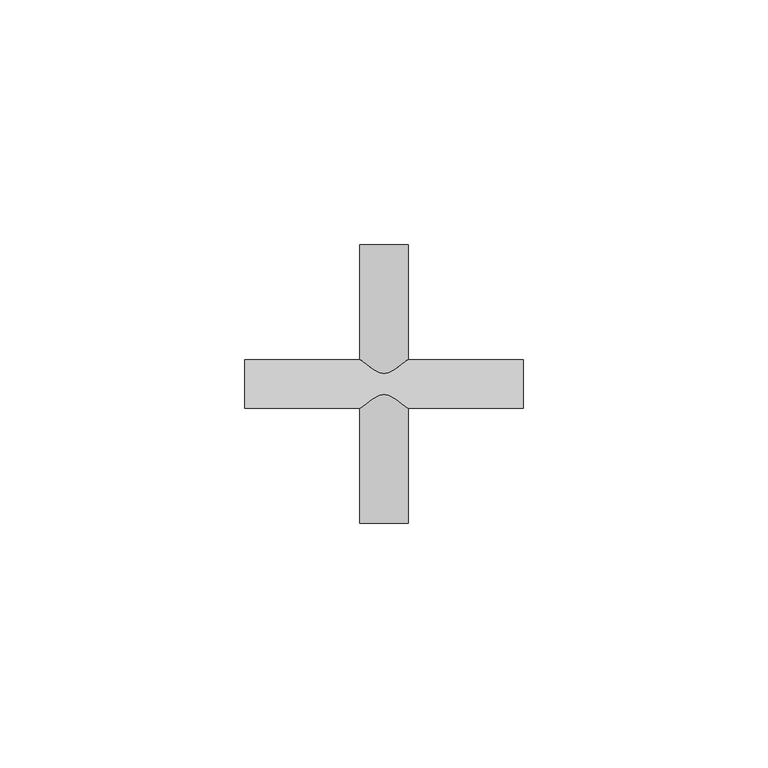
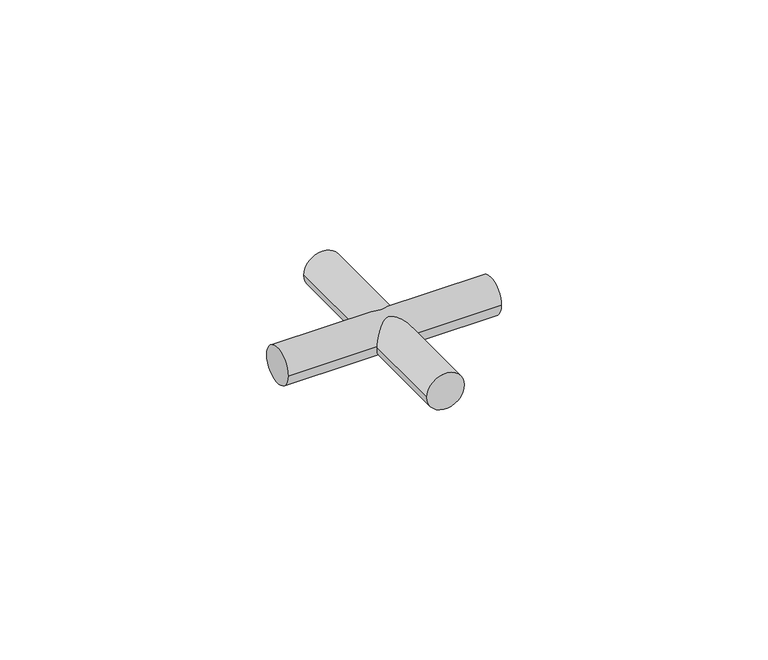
"""IFC4 building model written with IfcOpenShell, lengths in millimetres: duct fitting geometry, КНС_Крестовина_Пруток_Неспецифицируемое_DKC : NG3104CU_NG3109CU_Медь."""

from ifc_helpers import new_model, si_unit, point, frame, origin, origin_2d, place, context, project, spatial, circle_curve, trimmed, segment, composite_curve, outline, extrude, source, transform, mapped, element, save


def duct_fitting_e05f92f2(model_context):
    return source(origin(), model_context, "Body", "SweptSolid", [
        extrude(outline(composite_curve([segment(trimmed(circle_curve(origin_2d(), 5.0), [point((-5.0, 0.0))], [point((5.0, 0.0))], False, "CARTESIAN"), True, "CONTINUOUS"), segment(trimmed(circle_curve(origin_2d(), 5.0), [point((5.0, 0.0))], [point((-5.0, 0.0))], False, "CARTESIAN"), True, "CONTINUOUS")], self_intersect=False)), frame((-28.5, 0.0, 0.0), z_axis=(1.0, 0.0, 0.0), x_axis=(0.0, 1.0, 0.0)), (0.0, 0.0, 1.0), 57.0),
        extrude(outline(composite_curve([segment(trimmed(circle_curve(origin_2d(), 5.0), [point((0.0, -5.0))], [point((0.0, 5.0))], False, "CARTESIAN"), True, "CONTINUOUS"), segment(trimmed(circle_curve(origin_2d(), 5.0), [point((0.0, 5.0))], [point((0.0, -5.0))], False, "CARTESIAN"), True, "CONTINUOUS")], self_intersect=False)), frame((0.0, -28.5, 0.0), z_axis=(0.0, 1.0, 0.0), x_axis=(0.0, 0.0, 1.0)), (0.0, 0.0, 1.0), 57.0),
    ])


if __name__ == "__main__":
    model = new_model("IFC4")
    model_context = context("Model", 3, world=origin())
    ifc_project = project(units=[si_unit("LENGTHUNIT", "METRE", prefix="MILLI")], contexts=[model_context])
    site = spatial("IfcSite", under=ifc_project)
    building = spatial("IfcBuilding", under=site)
    placement = place(None, origin())
    duct_fitting_shape = duct_fitting_e05f92f2(model_context)
    element("IfcDuctFitting", 1, ObjectType="КНС_Крестовина_Пруток_Неспецифицируемое_DKC : NG3104CU_NG3109CU_Медь", at=placement, inside=building, context=model_context, shape_type="MappedRepresentation", body=[
        mapped(duct_fitting_shape, transform((0.0, 0.0, 0.0), x_axis=(1.0, 0.0, 0.0), y_axis=(0.0, 1.0, 0.0), z_axis=(0.0, 0.0, 1.0))),
    ])
    save(model, "model.ifc")
